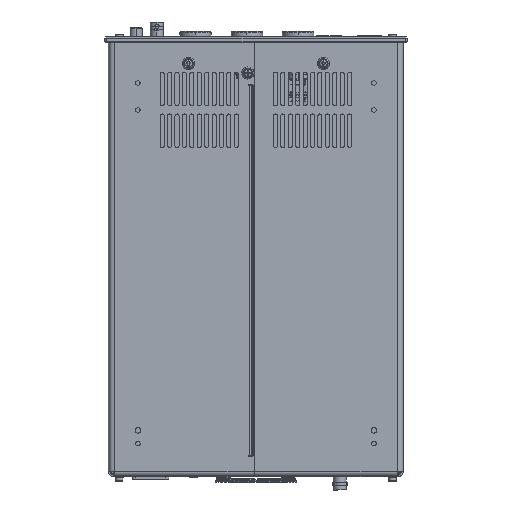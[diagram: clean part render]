
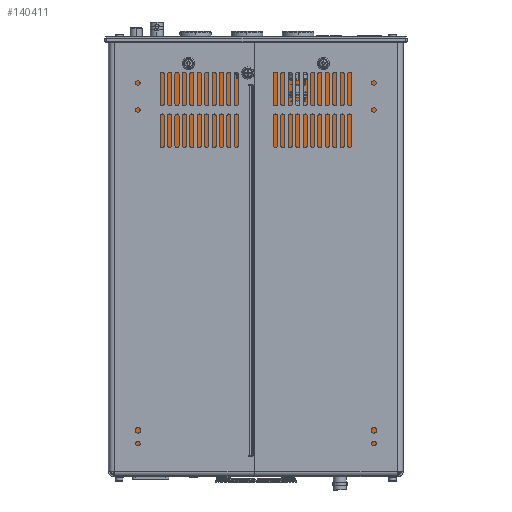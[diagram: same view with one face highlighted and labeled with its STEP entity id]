
A CAD part, front view. The second image highlights one B-rep face of the part: STEP entity #140411.
In plain terms, the highlighted planar face has unit normal (0, -1, 0).
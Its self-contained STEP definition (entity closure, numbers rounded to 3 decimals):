
#170 = CARTESIAN_POINT ( 'NONE',  ( 12.042, 339.881, 290.297 ) ) ;
#1471 = ORIENTED_EDGE ( 'NONE', *, *, #162764, .F. ) ;
#9977 = DIRECTION ( 'NONE',  ( -1., 0., 0. ) ) ;
#15990 = DIRECTION ( 'NONE',  ( 0., -1., 0. ) ) ;
#19754 = CARTESIAN_POINT ( 'NONE',  ( 221.542, 339.881, 290.297 ) ) ;
#23662 = DIRECTION ( 'NONE',  ( 1., 0., 0. ) ) ;
#26447 = EDGE_CURVE ( 'NONE', #77542, #125990, #67439, .T. ) ;
#26543 = VERTEX_POINT ( 'NONE', #19754 ) ;
#33793 = PLANE ( 'NONE',  #180770 ) ;
#37376 = DIRECTION ( 'NONE',  ( -1., 0., 0. ) ) ;
#48130 = LINE ( 'NONE', #170238, #85228 ) ;
#50600 = VECTOR ( 'NONE', #23662, 1000. ) ;
#67439 = LINE ( 'NONE', #106233, #153333 ) ;
#71231 = VECTOR ( 'NONE', #37376, 1000. ) ;
#74986 = EDGE_CURVE ( 'NONE', #26543, #83170, #48130, .T. ) ;
#77422 = CARTESIAN_POINT ( 'NONE',  ( 221.542, 339.881, -28.203 ) ) ;
#77542 = VERTEX_POINT ( 'NONE', #137174 ) ;
#79487 = EDGE_CURVE ( 'NONE', #83170, #77542, #85559, .T. ) ;
#83170 = VERTEX_POINT ( 'NONE', #77422 ) ;
#85228 = VECTOR ( 'NONE', #167262, 1000. ) ;
#85559 = LINE ( 'NONE', #91024, #71231 ) ;
#91024 = CARTESIAN_POINT ( 'NONE',  ( 7.542, 339.881, -28.203 ) ) ;
#92908 = ORIENTED_EDGE ( 'NONE', *, *, #26447, .F. ) ;
#95234 = LINE ( 'NONE', #154718, #50600 ) ;
#106233 = CARTESIAN_POINT ( 'NONE',  ( 12.042, 339.881, -28.203 ) ) ;
#109174 = DIRECTION ( 'NONE',  ( 0., 0., 1. ) ) ;
#125990 = VERTEX_POINT ( 'NONE', #170 ) ;
#131686 = ORIENTED_EDGE ( 'NONE', *, *, #74986, .F. ) ;
#137174 = CARTESIAN_POINT ( 'NONE',  ( 12.042, 339.881, -28.203 ) ) ;
#140411 = ADVANCED_FACE ( 'NONE', ( #164881 ), #33793, .T. ) ;
#147097 = CARTESIAN_POINT ( 'NONE',  ( 226.042, 339.881, 290.297 ) ) ;
#150919 = EDGE_LOOP ( 'NONE', ( #1471, #92908, #178431, #131686 ) ) ;
#153333 = VECTOR ( 'NONE', #109174, 1000. ) ;
#154718 = CARTESIAN_POINT ( 'NONE',  ( 226.042, 339.881, 290.297 ) ) ;
#162764 = EDGE_CURVE ( 'NONE', #125990, #26543, #95234, .T. ) ;
#164881 = FACE_OUTER_BOUND ( 'NONE', #150919, .T. ) ;
#167262 = DIRECTION ( 'NONE',  ( 0., 0., -1. ) ) ;
#170238 = CARTESIAN_POINT ( 'NONE',  ( 221.542, 339.881, 290.297 ) ) ;
#178431 = ORIENTED_EDGE ( 'NONE', *, *, #79487, .F. ) ;
#180770 = AXIS2_PLACEMENT_3D ( 'NONE', #147097, #15990, #9977 ) ;
